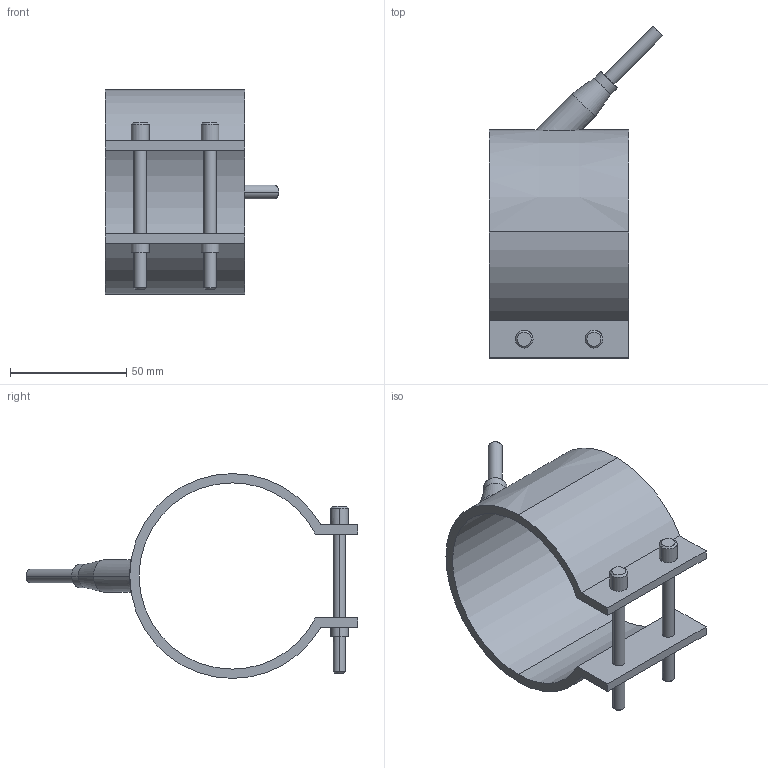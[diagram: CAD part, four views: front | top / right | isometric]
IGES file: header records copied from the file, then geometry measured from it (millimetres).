
Start section: START RECORD GO HERE.
Global section: file name: 29080060.igs; native system: DASSAULT SYSTEMES CATIA V5 R20 - www.3ds.com; preprocessor: CATIA Version 5 Release 20 ; author: Utente; organization: NB04-ASUS; date: 20210329.200756; units: millimetre
Bounding box: 74.55 x 142.55 x 88 mm (x, y, z)
Surface area: 37136.3 mm2 (no closed solid volume)
Topology: 0 solids, 0 shells, 54 faces, 246 edges, 246 vertices
Faces by surface type: revolution 38, plane 16
